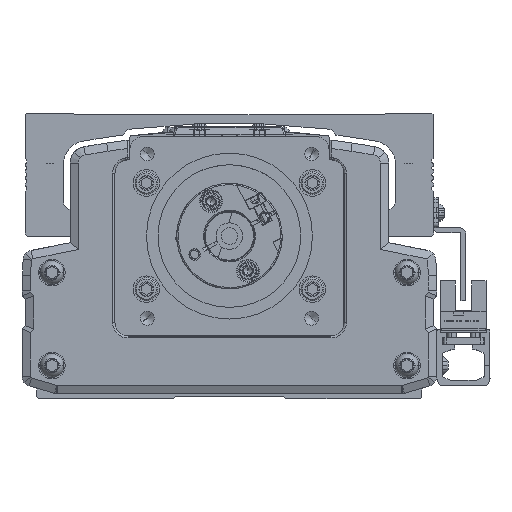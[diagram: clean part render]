
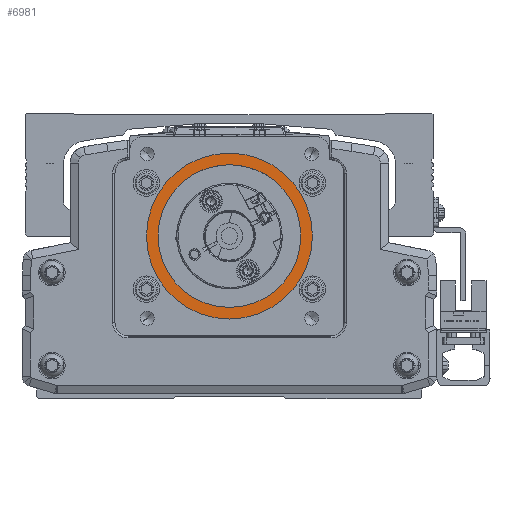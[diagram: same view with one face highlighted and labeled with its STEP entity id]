
A CAD part, front view. The second image highlights one B-rep face of the part: STEP entity #6981.
In plain terms, the highlighted planar face has unit normal (0, -1, 0).
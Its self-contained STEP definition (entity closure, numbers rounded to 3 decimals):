
#6981=ADVANCED_FACE('',(#16226,#16227),#16228,.T.);
#16226=FACE_BOUND('',#29009,.T.);
#16227=FACE_OUTER_BOUND('',#29010,.T.);
#16228=PLANE('',#29011);
#29009=EDGE_LOOP('',(#50025,#50026));
#29010=EDGE_LOOP('',(#50027,#50028));
#29011=AXIS2_PLACEMENT_3D('',#50029,#50030,#50031);
#50025=ORIENTED_EDGE('',*,*,#78697,.F.);
#50026=ORIENTED_EDGE('',*,*,#78698,.F.);
#50027=ORIENTED_EDGE('',*,*,#74975,.F.);
#50028=ORIENTED_EDGE('',*,*,#78699,.F.);
#50029=CARTESIAN_POINT('',(-300.,-485.778,0.));
#50030=DIRECTION('',(0.,-1.0,0.));
#50031=DIRECTION('',(1.0,0.,0.));
#74975=EDGE_CURVE('',#90570,#90573,#90574,.T.);
#78697=EDGE_CURVE('',#96399,#96400,#96401,.T.);
#78698=EDGE_CURVE('',#96400,#96399,#96402,.T.);
#78699=EDGE_CURVE('',#90573,#90570,#96403,.T.);
#90570=VERTEX_POINT('',#112221);
#90573=VERTEX_POINT('',#112225);
#90574=CIRCLE('',#112226,25.0);
#96399=VERTEX_POINT('',#120632);
#96400=VERTEX_POINT('',#120633);
#96401=CIRCLE('',#120634,21.5);
#96402=CIRCLE('',#120635,21.5);
#96403=CIRCLE('',#120636,25.0);
#112221=CARTESIAN_POINT('',(-275.,-485.778,0.));
#112225=CARTESIAN_POINT('',(-325.,-485.778,0.));
#112226=AXIS2_PLACEMENT_3D('',#136401,#136402,#136403);
#120632=CARTESIAN_POINT('',(-278.5,-485.778,0.));
#120633=CARTESIAN_POINT('',(-321.5,-485.778,0.));
#120634=AXIS2_PLACEMENT_3D('',#141334,#141335,#141336);
#120635=AXIS2_PLACEMENT_3D('',#141337,#141338,#141339);
#120636=AXIS2_PLACEMENT_3D('',#141340,#141341,#141342);
#136401=CARTESIAN_POINT('',(-300.,-485.778,0.));
#136402=DIRECTION('',(0.,1.0,0.));
#136403=DIRECTION('',(1.0,0.,0.));
#141334=CARTESIAN_POINT('',(-300.,-485.778,0.));
#141335=DIRECTION('',(0.,-1.0,0.));
#141336=DIRECTION('',(1.0,0.,0.));
#141337=CARTESIAN_POINT('',(-300.,-485.778,0.));
#141338=DIRECTION('',(0.,-1.0,0.));
#141339=DIRECTION('',(1.0,0.,0.));
#141340=CARTESIAN_POINT('',(-300.,-485.778,0.));
#141341=DIRECTION('',(0.,1.0,0.));
#141342=DIRECTION('',(1.0,0.,0.));
